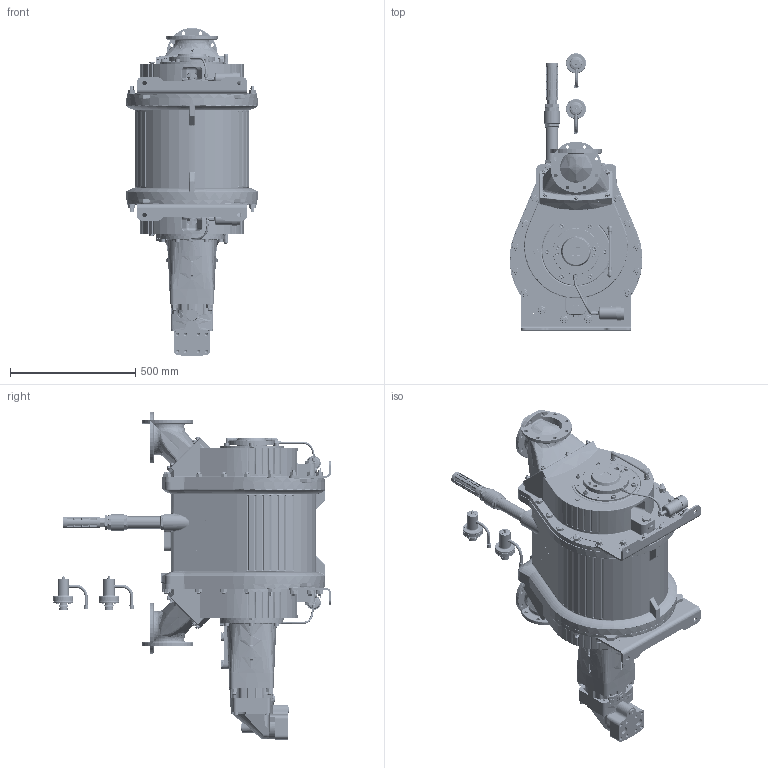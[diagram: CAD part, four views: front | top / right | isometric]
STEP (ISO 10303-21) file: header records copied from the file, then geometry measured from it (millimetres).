
FILE_DESCRIPTION(/* description */ (''),/* implementation_level */ '2;1');
FILE_NAME(/* name */ '1700166.stp',/* time_stamp */ '2026-04-22T13:09:36+02:00',/* author */ ('JJ'),/* organization */ (''),/* preprocessor_version */ 'ST-DEVELOPER v20',/* originating_system */ 'Autodesk Inventor 2025',/* authorisation */ '');
FILE_SCHEMA (('AUTOMOTIVE_DESIGN { 1 0 10303 214 3 1 1 }'));
Products named in the file (69): 1700166; 1659021; 1659049; 910100170; 910200008; 1634823; 1634808; 922000270; 910100021; 910100161; 944600276; 1659046; 1659095; 915000217; 1634773; 915000215; 915000217_1; 915000232; 910300487; 910100191; 915000225; 915000225-part1; 915000225-part2; 944600240; 915000050; 1634824; 1634809; 922000269; 925000587; 925000590; 944600356; 944600355; 1659017; 1659069; 1634666; 1634667; 1634668; 1634130; 1634131; 1634670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
Assembly tree (200 placements, depth 4):
  1700166
    1659017  x4
    1659069  x4
    1659021  x2
    910100021  x34
    910100161  x34
    910100170  x12
    910200008  x12
    1634823  x2
      1634808
      922000270
    1634826  x2
      1634811
      922000266
    1659049  x2
    944600276  x4
    1659046  x2
    1634824  x2
      1634809
      922000269
    1659095
    910300487  x2
    910100191  x2
    944600240  x2
    915000232  x2
    915000225  x2
      915000225-part1
      915000225-part2
    915000217
    1634773  x2
    915000215  x2
    915000217_1
    915000050
    925000587
    925000590
    944600356
    944600355
    1634666  x2
      1634667
      1634668
      1634130
      1634131
      1634670
      1634134
      910200105
      910100125
      910300428
      921000047
      922100045
      922100339
      1634669
      925000651
      910300012
    925000862  x2
    927000134-TM2500  x2
    1659079_Simplify_body
    1636087
      1636088
      922000307
    1659106
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Bounding box: 529.22 x 1107.24 x 1309 mm (x, y, z)
Volume: 159025316 mm3; surface area: 6807092.5 mm2
Topology: 227 solids, 245 shells, 11869 faces, 30582 edges, 19714 vertices
Faces by surface type: plane 4481, bspline 3166, cylinder 2622, cone 1009, torus 406, sphere 185
Full cylindrical faces by diameter (mm): 1.5 x16, 3.2 x4, 3.3 x4, 3.5 x4, 4 x3, 4.134 x4, 4.917 x2, 4.92 x10, 5 x2, 5.3 x2, 6 x46, 6.1 x2, 6.4 x2, 6.5 x8, 8 x38, 8.376 x14, 8.4 x2, 8.5 x3, 8.57 x2, 9.2 x2, 9.7 x2, 9.8 x4, 10 x189, 10.106 x9, 10.5 x12, 11 x66, 11.18 x2, 11.3 x4, 11.445 x2, 11.835 x8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
Entity records: 502617 total; most frequent: CARTESIAN_POINT 336720, ORIENTED_EDGE 36244, DIRECTION 27750, EDGE_CURVE 18122, VERTEX_POINT 11667, AXIS2_PLACEMENT_3D 10103, EDGE_LOOP 7999, LINE 7544
